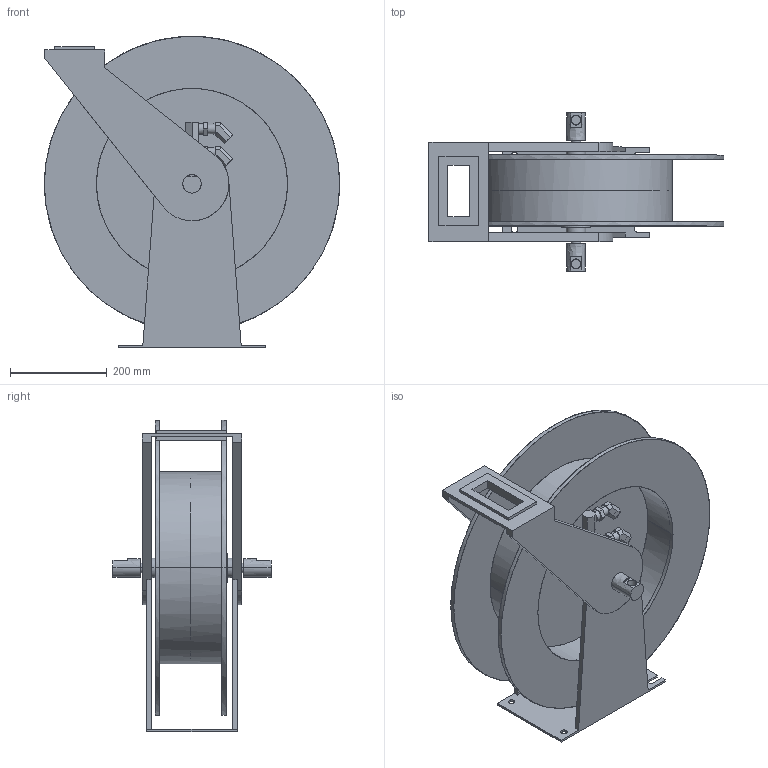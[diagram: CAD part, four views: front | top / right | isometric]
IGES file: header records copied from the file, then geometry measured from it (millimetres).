
Start section: Comment
Global section: file name: TH80000 OMP TW.igs; native system:  By UGS Corp.; preprocessor: XPlus GENERIC/IGES 3.0; author: Author; organization: Title; date: 20120621.082742; units: millimetre
Bounding box: 609.6 x 326.39 x 642.39 mm (x, y, z)
Surface area: 1878087.3 mm2 (no closed solid volume)
Topology: 0 solids, 0 shells, 196 faces, 968 edges, 968 vertices
Faces by surface type: bspline 196
